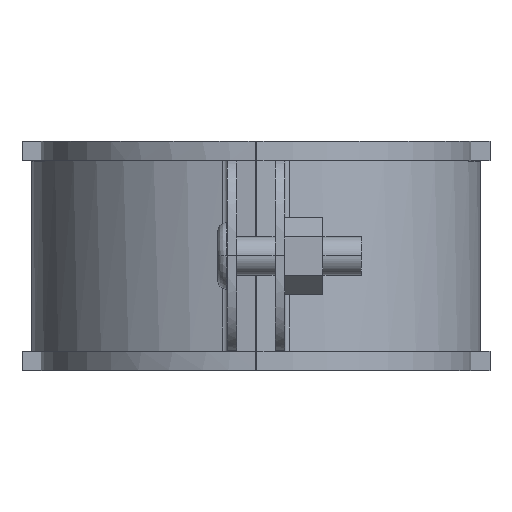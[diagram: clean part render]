
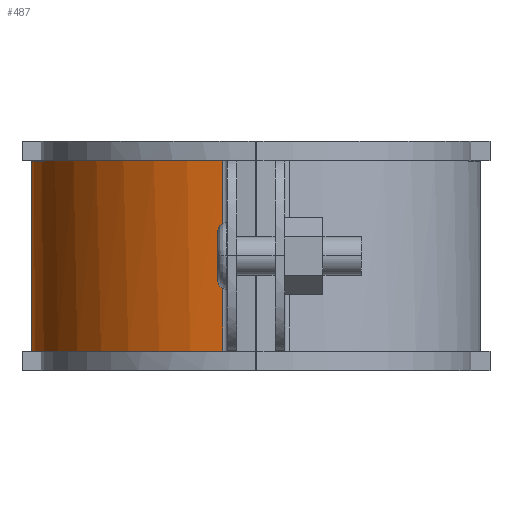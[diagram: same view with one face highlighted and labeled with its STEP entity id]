
A CAD part, top view. The second image highlights one B-rep face of the part: STEP entity #487.
In plain terms, the highlighted free-form (B-spline) face has degree [3, 1] with [4, 2] control points.
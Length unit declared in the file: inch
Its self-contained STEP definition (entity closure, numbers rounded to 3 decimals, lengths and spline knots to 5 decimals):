
#487=ADVANCED_FACE('',(#1230),#1231,.T.);
#503=EDGE_CURVE('',#1141,#1255,#1256,.T.);
#665=EDGE_CURVE('',#1503,#1141,#1504,.T.);
#697=EDGE_CURVE('',#1448,#1503,#1544,.T.);
#953=EDGE_CURVE('',#1448,#1255,#1873,.T.);
#1141=VERTEX_POINT('',#2197);
#1230=FACE_OUTER_BOUND('',#2337,.T.);
#1231=B_SPLINE_SURFACE_WITH_KNOTS('',3,1,((#2338,#2339),(#2340,#2341),(#2342,#2343),(#2344,#2345)),.UNSPECIFIED.,.F.,.F.,.F.,(4,4),(2,2),(-1.0,-0.0),(0.0,1.25),.UNSPECIFIED.);
#1255=VERTEX_POINT('',#2400);
#1256=B_SPLINE_CURVE_WITH_KNOTS('',3,(#2401,#2402,#2403,#2404),.UNSPECIFIED.,.F.,.F.,(4,4),(0.0,1.0),.UNSPECIFIED.);
#1448=VERTEX_POINT('',#2782);
#1503=VERTEX_POINT('',#2874);
#1504=LINE('',#2875,#2876);
#1544=B_SPLINE_CURVE_WITH_KNOTS('',3,(#3052,#3053,#3054,#3055),.UNSPECIFIED.,.F.,.F.,(4,4),(-1.0,-0.0),.UNSPECIFIED.);
#1873=LINE('',#3688,#3689);
#2197=CARTESIAN_POINT('',(-0.00006,0.0,2.20986));
#2337=EDGE_LOOP('',(#4094,#4095,#4096,#4097));
#2338=CARTESIAN_POINT('',(1.25317,1.25,3.67902));
#2339=CARTESIAN_POINT('',(1.25317,0.0,3.67902));
#2340=CARTESIAN_POINT('',(0.54414,1.25,3.57414));
#2341=CARTESIAN_POINT('',(0.54414,0.0,3.57414));
#2342=CARTESIAN_POINT('',(-0.00006,1.25,2.94797));
#2343=CARTESIAN_POINT('',(-0.00006,0.0,2.94797));
#2344=CARTESIAN_POINT('',(-0.00006,1.25,2.20986));
#2345=CARTESIAN_POINT('',(-0.00006,0.0,2.20986));
#2400=CARTESIAN_POINT('',(1.25317,0.0,3.67902));
#2401=CARTESIAN_POINT('',(-0.00006,0.0,2.20986));
#2402=CARTESIAN_POINT('',(-0.00006,0.0,2.94797));
#2403=CARTESIAN_POINT('',(0.54414,0.0,3.57414));
#2404=CARTESIAN_POINT('',(1.25317,0.0,3.67902));
#2782=CARTESIAN_POINT('',(1.25317,1.24627,3.67902));
#2874=CARTESIAN_POINT('',(-0.00006,1.24627,2.20986));
#2875=CARTESIAN_POINT('',(-0.00006,1.25,2.20986));
#2876=VECTOR('',#4538,1.0);
#3052=CARTESIAN_POINT('',(1.25317,1.24627,3.67902));
#3053=CARTESIAN_POINT('',(0.54414,1.24627,3.57414));
#3054=CARTESIAN_POINT('',(-0.00006,1.24627,2.94797));
#3055=CARTESIAN_POINT('',(-0.00006,1.24627,2.20986));
#3688=CARTESIAN_POINT('',(1.25317,1.25,3.67902));
#3689=VECTOR('',#5119,1.0);
#4094=ORIENTED_EDGE('',*,*,#697,.T.);
#4095=ORIENTED_EDGE('',*,*,#665,.T.);
#4096=ORIENTED_EDGE('',*,*,#503,.T.);
#4097=ORIENTED_EDGE('',*,*,#953,.F.);
#4538=DIRECTION('',(0.0,-1.0,0.0));
#5119=DIRECTION('',(0.0,-1.0,0.0));
